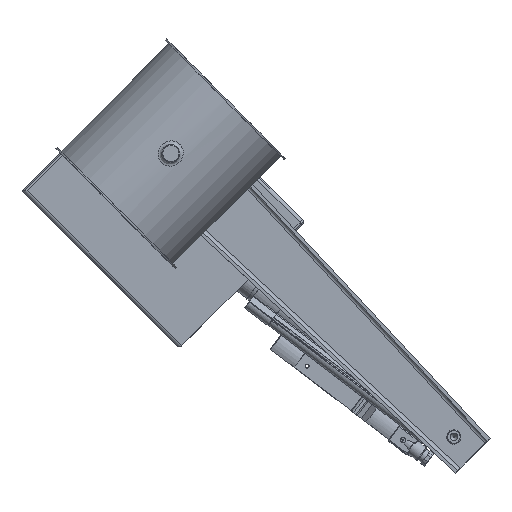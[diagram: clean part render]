
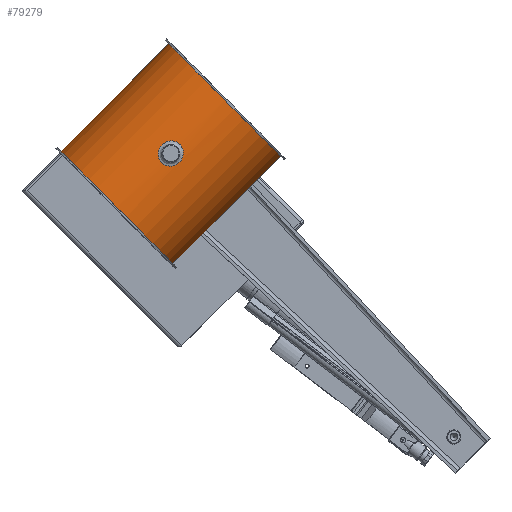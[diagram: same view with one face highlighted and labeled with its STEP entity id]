
A CAD part, top view. The second image highlights one B-rep face of the part: STEP entity #79279.
In plain terms, the highlighted cylindrical face has radius 89 mm (diameter 178 mm), a full revolution.
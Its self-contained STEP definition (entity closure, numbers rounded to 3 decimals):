
#78985=CARTESIAN_POINT('',(-87.727,15.0,87.5));
#78986=VERTEX_POINT('',#78985);
#78987=CARTESIAN_POINT('',(-87.727,15.0,87.5));
#78988=CARTESIAN_POINT('',(-87.727,15.0,88.444));
#78989=CARTESIAN_POINT('',(-87.742,14.91,89.419));
#78990=CARTESIAN_POINT('',(-87.806,14.529,91.358));
#78991=CARTESIAN_POINT('',(-87.854,14.239,92.322));
#78992=CARTESIAN_POINT('',(-88.035,13.09,95.093));
#78993=CARTESIAN_POINT('',(-88.206,11.936,96.777));
#78994=CARTESIAN_POINT('',(-88.525,9.277,99.436));
#78995=CARTESIAN_POINT('',(-88.695,7.593,100.59));
#78996=CARTESIAN_POINT('',(-88.874,4.822,101.739));
#78997=CARTESIAN_POINT('',(-88.922,3.858,102.029));
#78998=CARTESIAN_POINT('',(-88.985,1.919,102.41));
#78999=CARTESIAN_POINT('',(-89.0,0.944,102.5));
#79000=CARTESIAN_POINT('',(-89.0,-0.944,102.5));
#79001=CARTESIAN_POINT('',(-88.985,-1.919,102.41));
#79002=CARTESIAN_POINT('',(-88.922,-3.858,102.029));
#79003=CARTESIAN_POINT('',(-88.874,-4.822,101.739));
#79004=CARTESIAN_POINT('',(-88.695,-7.593,100.59));
#79005=CARTESIAN_POINT('',(-88.525,-9.277,99.436));
#79006=CARTESIAN_POINT('',(-88.206,-11.936,96.777));
#79007=CARTESIAN_POINT('',(-88.035,-13.09,95.093));
#79008=CARTESIAN_POINT('',(-87.854,-14.239,92.322));
#79009=CARTESIAN_POINT('',(-87.806,-14.529,91.358));
#79010=CARTESIAN_POINT('',(-87.742,-14.91,89.419));
#79011=CARTESIAN_POINT('',(-87.727,-15.0,88.444));
#79012=CARTESIAN_POINT('',(-87.727,-15.0,86.556));
#79013=CARTESIAN_POINT('',(-87.742,-14.91,85.581));
#79014=CARTESIAN_POINT('',(-87.806,-14.529,83.642));
#79015=CARTESIAN_POINT('',(-87.854,-14.239,82.678));
#79016=CARTESIAN_POINT('',(-88.035,-13.09,79.907));
#79017=CARTESIAN_POINT('',(-88.206,-11.936,78.223));
#79018=CARTESIAN_POINT('',(-88.525,-9.277,75.564));
#79019=CARTESIAN_POINT('',(-88.695,-7.593,74.41));
#79020=CARTESIAN_POINT('',(-88.874,-4.822,73.261));
#79021=CARTESIAN_POINT('',(-88.922,-3.858,72.971));
#79022=CARTESIAN_POINT('',(-88.985,-1.919,72.59));
#79023=CARTESIAN_POINT('',(-89.0,-0.944,72.5));
#79024=CARTESIAN_POINT('',(-89.0,0.944,72.5));
#79025=CARTESIAN_POINT('',(-88.985,1.919,72.59));
#79026=CARTESIAN_POINT('',(-88.922,3.858,72.971));
#79027=CARTESIAN_POINT('',(-88.874,4.822,73.261));
#79028=CARTESIAN_POINT('',(-88.695,7.593,74.41));
#79029=CARTESIAN_POINT('',(-88.525,9.277,75.564));
#79030=CARTESIAN_POINT('',(-88.206,11.936,78.223));
#79031=CARTESIAN_POINT('',(-88.035,13.09,79.907));
#79032=CARTESIAN_POINT('',(-87.854,14.239,82.678));
#79033=CARTESIAN_POINT('',(-87.806,14.529,83.642));
#79034=CARTESIAN_POINT('',(-87.742,14.91,85.581));
#79035=CARTESIAN_POINT('',(-87.727,15.0,86.556));
#79036=CARTESIAN_POINT('',(-87.727,15.0,87.5));
#79037=B_SPLINE_CURVE_WITH_KNOTS('',3,(#78987,#78988,#78989,#78990,#78991,#78992,#78993,#78994,#78995,#78996,#78997,#78998,#78999,#79000,#79001,#79002,#79003,#79004,#79005,#79006,#79007,#79008,#79009,#79010,#79011,#79012,#79013,#79014,#79015,#79016,#79017,#79018,#79019,#79020,#79021,#79022,#79023,#79024,#79025,#79026,#79027,#79028,#79029,#79030,#79031,#79032,#79033,#79034,#79035,#79036),.UNSPECIFIED.,.T.,.U.,(4,2,2,2,2,2,2,2,2,2,2,2,2,2,2,2,2,2,2,2,2,2,2,2,4),(0.0,0.283,0.566,1.132,1.699,1.982,2.265,2.548,2.831,3.397,3.963,4.246,4.53,4.813,5.096,5.662,6.228,6.511,6.794,7.077,7.361,7.927,8.493,8.776,9.059),.UNSPECIFIED.);
#79038=EDGE_CURVE('',#78986,#78986,#79037,.T.);
#79208=CARTESIAN_POINT('',(87.923,13.802,87.5));
#79209=VERTEX_POINT('',#79208);
#79219=CARTESIAN_POINT('',(87.923,13.802,87.5));
#79220=CARTESIAN_POINT('',(87.923,13.802,87.501));
#79221=CARTESIAN_POINT('',(87.923,13.802,87.502));
#79222=CARTESIAN_POINT('',(87.923,13.802,87.504));
#79223=CARTESIAN_POINT('',(87.923,13.801,89.664));
#79224=CARTESIAN_POINT('',(88.077,12.871,93.979));
#79225=CARTESIAN_POINT('',(88.599,8.912,99.209));
#79226=CARTESIAN_POINT('',(89.016,3.212,102.111));
#79227=CARTESIAN_POINT('',(89.016,-3.174,102.121));
#79228=CARTESIAN_POINT('',(88.604,-8.88,99.23));
#79229=CARTESIAN_POINT('',(88.017,-13.3,93.452));
#79230=CARTESIAN_POINT('',(87.845,-14.271,86.717));
#79231=CARTESIAN_POINT('',(88.173,-12.216,79.709));
#79232=CARTESIAN_POINT('',(88.67,-8.316,75.297));
#79233=CARTESIAN_POINT('',(89.016,-2.479,72.885));
#79234=CARTESIAN_POINT('',(89.017,3.174,72.88));
#79235=CARTESIAN_POINT('',(88.601,8.899,75.775));
#79236=CARTESIAN_POINT('',(88.167,12.196,80.124));
#79237=CARTESIAN_POINT('',(87.961,13.566,84.235));
#79238=CARTESIAN_POINT('',(87.923,13.802,86.421));
#79239=CARTESIAN_POINT('',(87.923,13.802,87.5));
#79240=B_SPLINE_CURVE_WITH_KNOTS('',3,(#79219,#79220,#79221,#79222,#79223,#79224,#79225,#79226,#79227,#79228,#79229,#79230,#79231,#79232,#79233,#79234,#79235,#79236,#79237,#79238,#79239),.UNSPECIFIED.,.T.,.U.,(4,3,1,1,1,1,1,1,1,1,1,1,1,1,1,1,4),(-6.033,-6.032,-5.602,-5.171,-4.74,-4.309,-3.878,-3.447,-2.873,-2.585,-2.011,-1.724,-1.293,-0.862,-0.431,-0.215,0.),.UNSPECIFIED.);
#79241=EDGE_CURVE('',#79209,#79209,#79240,.T.);
#79246=CARTESIAN_POINT('',(0.0,0.0,0.0));
#79247=DIRECTION('',(0.0,0.0,1.0));
#79248=DIRECTION('',(-1.0,0.0,0.0));
#79249=AXIS2_PLACEMENT_3D('',#79246,#79247,#79248);
#79250=CYLINDRICAL_SURFACE('',#79249,89.0);
#79251=CARTESIAN_POINT('',(89.0,0.,173.0));
#79252=VERTEX_POINT('',#79251);
#79253=CARTESIAN_POINT('',(0.0,0.0,173.0));
#79254=DIRECTION('',(0.0,0.0,-1.0));
#79255=DIRECTION('',(-1.0,0.0,0.0));
#79256=AXIS2_PLACEMENT_3D('',#79253,#79254,#79255);
#79257=CIRCLE('',#79256,89.0);
#79258=EDGE_CURVE('',#79252,#79252,#79257,.T.);
#79259=ORIENTED_EDGE('',*,*,#79258,.T.);
#79260=EDGE_LOOP('',(#79259));
#79261=FACE_OUTER_BOUND('',#79260,.T.);
#79262=ORIENTED_EDGE('',*,*,#79038,.T.);
#79263=EDGE_LOOP('',(#79262));
#79264=FACE_BOUND('',#79263,.T.);
#79265=CARTESIAN_POINT('',(-89.0,0.,2.0));
#79266=VERTEX_POINT('',#79265);
#79267=CARTESIAN_POINT('',(0.0,0.0,2.0));
#79268=DIRECTION('',(0.0,0.0,1.0));
#79269=DIRECTION('',(-1.0,0.0,0.0));
#79270=AXIS2_PLACEMENT_3D('',#79267,#79268,#79269);
#79271=CIRCLE('',#79270,89.0);
#79272=EDGE_CURVE('',#79266,#79266,#79271,.T.);
#79273=ORIENTED_EDGE('',*,*,#79272,.T.);
#79274=EDGE_LOOP('',(#79273));
#79275=FACE_BOUND('',#79274,.T.);
#79276=ORIENTED_EDGE('',*,*,#79241,.F.);
#79277=EDGE_LOOP('',(#79276));
#79278=FACE_BOUND('',#79277,.T.);
#79279=ADVANCED_FACE('',(#79261,#79264,#79275,#79278),#79250,.T.);
